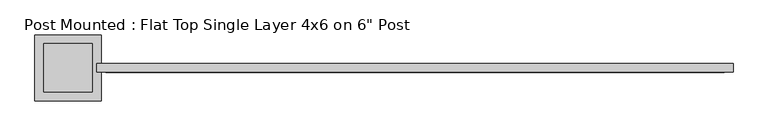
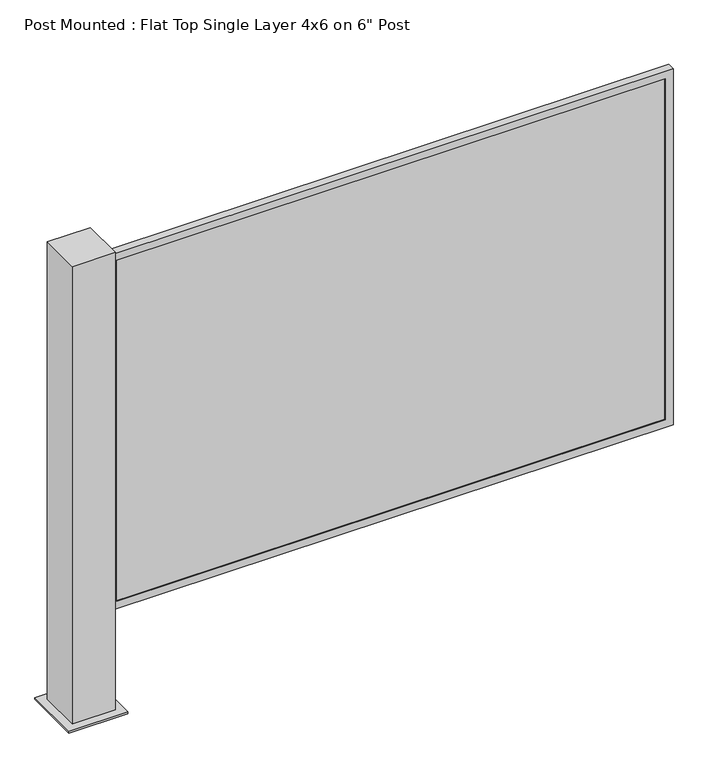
"""IFC4 building model written with IfcOpenShell, lengths in millimetres: proxy geometry."""

from ifc_helpers import new_model, si_unit, frame, origin, origin_with_axes, place, context, project, spatial, polyline, outline, extrude, source, transform, mapped, element, save


def proxy_dd03f605(model_context):
    return source(origin(), model_context, "Body", "SweptSolid", [
        extrude(outline(polyline([(-854.257955, 95.25), (-854.257955, -95.25), (-1044.757955, -95.25), (-1044.757955, 95.25), (-854.257955, 95.25)])), origin_with_axes(), (0.0, 0.0, 1.0), 6.35),
        extrude(outline(polyline([(936.442045, -1.5875), (-841.557955, -1.5875), (-841.557955, 1.5875), (936.442045, 1.5875), (936.442045, -1.5875)])), frame((0.0, 0.0, 330.2), z_axis=(0.0, 0.0, 1.0), x_axis=(1.0, 0.0, 0.0)), (0.0, 0.0, 1.0), 1168.4),
        extrude(outline(polyline([(1524.0, 961.842045), (1524.0, -866.957955), (304.8, -866.957955), (304.8, 961.842045), (1524.0, 961.842045)]), holes=[polyline([(1498.6, 936.442045), (330.2, 936.442045), (330.2, -841.557955), (1498.6, -841.557955), (1498.6, 936.442045)])]), frame((0.0, -12.7, 0.0), z_axis=(0.0, 1.0, 0.0), x_axis=(0.0, 0.0, 1.0)), (0.0, 0.0, 1.0), 25.4),
        extrude(outline(polyline([(-879.657955, 69.85), (-879.657955, -69.85), (-1019.357955, -69.85), (-1019.357955, 69.85), (-879.657955, 69.85)])), frame((0.0, 0.0, 6.35), z_axis=(0.0, 0.0, 1.0), x_axis=(1.0, 0.0, 0.0)), (0.0, 0.0, 1.0), 1568.45),
        extrude(outline(polyline([(936.442045, -9.525), (-841.557955, -9.525), (-841.557955, 1.5875), (936.442045, 1.5875), (936.442045, -9.525)])), frame((0.0, 0.0, 330.2), z_axis=(0.0, 0.0, 1.0), x_axis=(1.0, 0.0, 0.0)), (0.0, 0.0, 1.0), 1168.4),
    ])


if __name__ == "__main__":
    model = new_model("IFC4")
    model_context = context("Model", 3, world=origin())
    ifc_project = project(units=[si_unit("LENGTHUNIT", "METRE", prefix="MILLI")], contexts=[model_context])
    site = spatial("IfcSite", under=ifc_project)
    building = spatial("IfcBuilding", under=site)
    placement = place(None, origin())
    proxy_shape = proxy_dd03f605(model_context)
    element("IfcBuildingElementProxy", 1, Name="Post Mounted : Flat Top Single Layer 4x6 on 6\" Post", ObjectType="Post Mounted : Flat Top Single Layer 4x6 on 6\" Post", at=placement, inside=building, context=model_context, shape_type="MappedRepresentation", body=[
        mapped(proxy_shape, transform((0.0, 0.0, 0.0), x_axis=(1.0, 0.0, 0.0), y_axis=(0.0, 1.0, 0.0), z_axis=(0.0, 0.0, 1.0))),
    ])
    save(model, "model.ifc")
